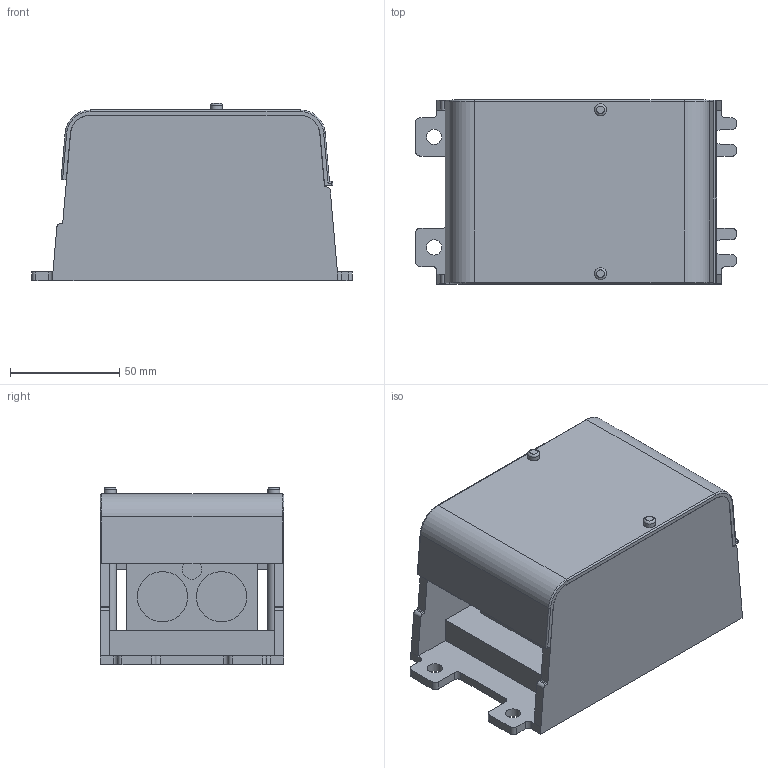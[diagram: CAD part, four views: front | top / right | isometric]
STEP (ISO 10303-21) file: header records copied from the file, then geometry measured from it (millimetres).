
FILE_DESCRIPTION(/* description */ ('Unknown'),/* implementation_level */ '2;1');
FILE_NAME(/* name */ 'utb-s 2x240A',/* time_stamp */ '2021-05-10T12:36:23+02:00',/* author */ ('Unknown'),/* organization */ ('Unknown'),/* preprocessor_version */ 'ST-DEVELOPER v16.7',/* originating_system */ 'Solid Edge',/* authorisation */ 'Unknown');
FILE_SCHEMA (('AUTOMOTIVE_DESIGN {1 0 10303 214 3 1 1}'));
Length unit declared in the file: millimetre
Products named in the file (4): utb-s 2x240A_sestava; utb-s 2x240A; utb-s 2x240_3x120_viko; srb
Assembly tree (4 placements, depth 2):
  utb-s 2x240A_sestava
    utb-s 2x240A
    utb-s 2x240_3x120_viko
    srb  x2
Bounding box: 146.7 x 84 x 81 mm (x, y, z)
Volume: 359228.2 mm3; surface area: 113428.6 mm2
Topology: 4 solids, 4 shells, 289 faces, 741 edges, 477 vertices
Faces by surface type: plane 167, cylinder 96, cone 10, sphere 6, torus 6, bspline 4
Full cylindrical faces by diameter (mm): 2.4 x4, 3.1 x2, 5.5 x2, 6 x2, 7 x2, 9 x2, 15.8 x4, 23 x4
Entity records: 8438 total; most frequent: CARTESIAN_POINT 1506, DIRECTION 1440, ORIENTED_EDGE 1366, EDGE_CURVE 683, AXIS2_PLACEMENT_3D 489, LINE 462, VECTOR 462, VERTEX_POINT 455
